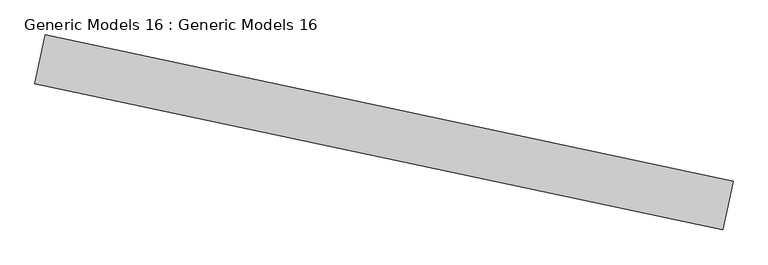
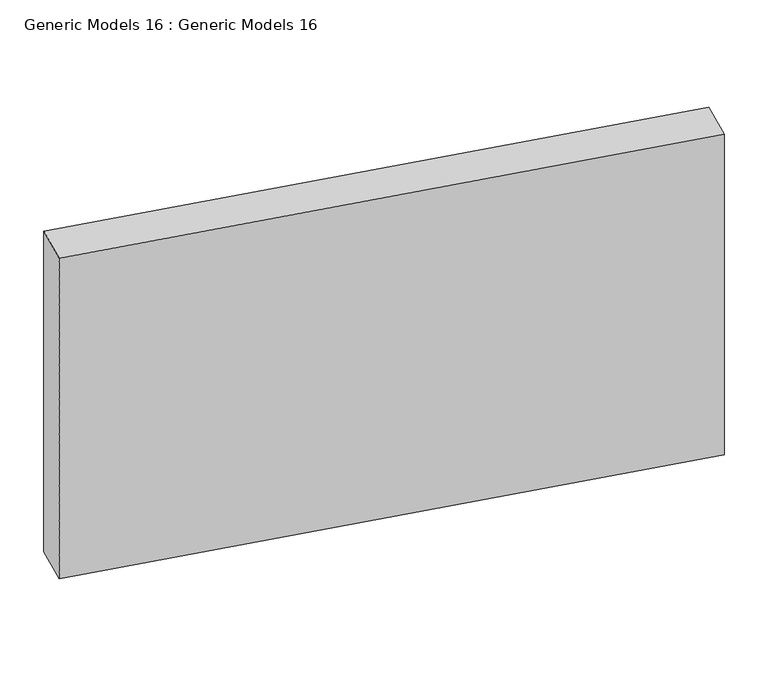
"""IFC4 building model written with IfcOpenShell, lengths in millimetres: proxy geometry, Generic Models 16 : Generic Models 16."""

from ifc_helpers import new_model, si_unit, frame, origin, place, context, project, spatial, polyline, outline, extrude, source, transform, mapped, element, save


def generic_models_16_generic_models_16_a599c295(model_context):
    return source(origin(), model_context, "Body", "SweptSolid", [
        extrude(outline(polyline([(509465.1852713, 15503.9008062), (510687.8697722, 15244.0111927), (510669.4231881, 15157.2268377), (509446.7386872, 15417.1164512), (509465.1852713, 15503.9008062)])), frame((0.0, 0.0, 1201.2935371), z_axis=(0.0, 0.0, 1.0), x_axis=(1.0, 0.0, 0.0)), (0.0, 0.0, 1.0), 700.0),
    ])


if __name__ == "__main__":
    model = new_model("IFC4")
    model_context = context("Model", 3, world=origin())
    ifc_project = project(units=[si_unit("LENGTHUNIT", "METRE", prefix="MILLI")], contexts=[model_context])
    site = spatial("IfcSite", under=ifc_project)
    building = spatial("IfcBuilding", under=site)
    placement = place(None, origin())
    generic_models_16_generic_models_16_shape = generic_models_16_generic_models_16_a599c295(model_context)
    element("IfcBuildingElementProxy", 1, Name="Generic Models 16 : Generic Models 16", ObjectType="Generic Models 16 : Generic Models 16", at=placement, inside=building, context=model_context, shape_type="MappedRepresentation", body=[
        mapped(generic_models_16_generic_models_16_shape, transform((0.0, 0.0, 0.0), x_axis=(1.0, 0.0, 0.0), y_axis=(0.0, 1.0, 0.0), z_axis=(0.0, 0.0, 1.0))),
    ])
    save(model, "model.ifc")
